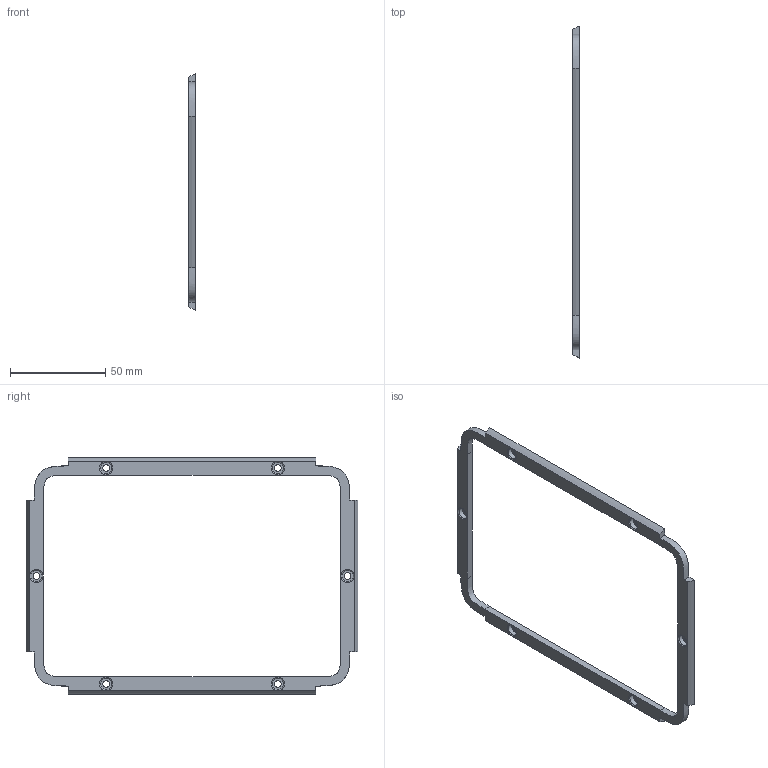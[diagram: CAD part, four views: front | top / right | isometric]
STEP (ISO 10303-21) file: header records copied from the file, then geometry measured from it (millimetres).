
FILE_DESCRIPTION(/* description */ (''),/* implementation_level */ '2;1');
FILE_NAME(/* name */ 'INTERNAL DOOR BRACKET.step',/* time_stamp */ '2024-02-28T16:37:16Z',/* author */ (''),/* organization */ (''),/* preprocessor_version */ 'ST-DEVELOPER v20',/* originating_system */ 'Autodesk Translation Framework v12.20.1.177',/* authorisation */ '');
FILE_SCHEMA (('AUTOMOTIVE_DESIGN { 1 0 10303 214 3 1 1 }'));
Length unit declared in the file: millimetre
Products named in the file (1): INTERNAL DOOR BRACKET
Bounding box: 3.6 x 173.87 x 123.87 mm (x, y, z)
Volume: 13757.1 mm3; surface area: 12173.5 mm2
Topology: 1 solids, 1 shells, 50 faces, 126 edges, 84 vertices
Faces by surface type: plane 20, bspline 12, cylinder 12, torus 6
Full cylindrical faces by diameter (mm): 3.5 x6, 6 x6
Entity records: 2500 total; most frequent: CARTESIAN_POINT 1281, ORIENTED_EDGE 252, DIRECTION 214, EDGE_CURVE 126, VERTEX_POINT 84, AXIS2_PLACEMENT_3D 81, EDGE_LOOP 70, LINE 52
